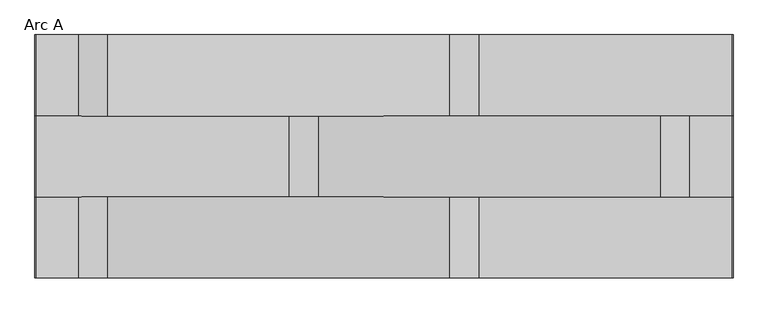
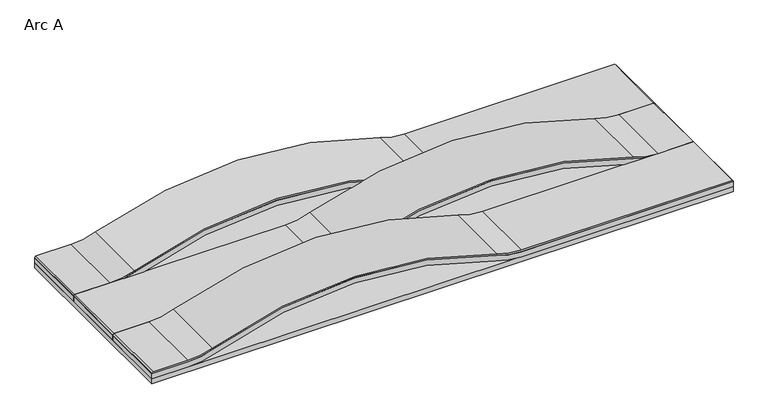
"""IFC4 building model written with IfcOpenShell, lengths in millimetres: proxy geometry, FilzFelt_Arc : Arc A."""

from ifc_helpers import new_model, si_unit, point, frame, frame_2d, origin, origin_with_axes, place, context, project, spatial, polyline, circle_curve, trimmed, segment, composite_curve, outline, extrude, source, transform, mapped, element, save


def arc_a_e282a2cc(model_context):
    return source(origin(), model_context, "Body", "SweptSolid", [
        extrude(outline(composite_curve([segment(polyline([(19.952, -546.1), (10.046, -546.1), (10.046, -477.9298789)]), True, "CONTINUOUS"), segment(trimmed(circle_curve(frame_2d((146.952, -477.9298789)), 136.906), [point((10.046, -477.9298789))], [point((19.1533167, -428.8304962))], False, "CARTESIAN"), True, "CONTINUOUS"), segment(trimmed(circle_curve(frame_2d((-667.2995118, -165.1)), 735.3715118), [point((19.1533167, -428.8304962))], [point((19.1533167, 98.6304962))], True, "CARTESIAN"), True, "CONTINUOUS"), segment(trimmed(circle_curve(frame_2d((146.952, 147.7298789)), 136.906), [point((19.1533167, 98.6304962))], [point((10.046, 147.7298789))], False, "CARTESIAN"), True, "CONTINUOUS"), segment(polyline([(10.046, 147.7298789), (10.046, 546.1), (19.952, 546.1), (19.952, 147.7298789)]), True, "CONTINUOUS"), segment(trimmed(circle_curve(frame_2d((146.952, 147.7298789)), 127.0), [point((19.952, 147.7298789))], [point((28.4003457, 102.1831417))], True, "CARTESIAN"), True, "CONTINUOUS"), segment(trimmed(circle_curve(frame_2d((-667.2995118, -165.1)), 745.2775118), [point((28.4003457, 102.1831417))], [point((28.4003457, -432.3831417))], False, "CARTESIAN"), True, "CONTINUOUS"), segment(trimmed(circle_curve(frame_2d((146.952, -477.9298789)), 127.0), [point((28.4003457, -432.3831417))], [point((19.952, -477.9298789))], True, "CARTESIAN"), True, "CONTINUOUS"), segment(polyline([(19.952, -477.9298789), (19.952, -546.1)]), True, "CONTINUOUS")], self_intersect=False)), frame((0.0, -190.5, 0.0), z_axis=(0.0, 1.0, 0.0), x_axis=(0.0, 0.0, 1.0)), (0.0, 0.0, 1.0), 127.0),
        extrude(outline(composite_curve([segment(polyline([(19.952, 546.1), (19.952, 477.9298789)]), True, "CONTINUOUS"), segment(trimmed(circle_curve(frame_2d((146.952, 477.9298789)), 127.0), [point((19.952, 477.9298789))], [point((28.4003457, 432.3831417))], True, "CARTESIAN"), True, "CONTINUOUS"), segment(trimmed(circle_curve(frame_2d((-667.2995118, 165.1)), 745.2775118), [point((28.4003457, 432.3831417))], [point((28.4003457, -102.1831417))], False, "CARTESIAN"), True, "CONTINUOUS"), segment(trimmed(circle_curve(frame_2d((146.952, -147.7298789)), 127.0), [point((28.4003457, -102.1831417))], [point((19.952, -147.7298789))], True, "CARTESIAN"), True, "CONTINUOUS"), segment(polyline([(19.952, -147.7298789), (19.952, -546.1), (10.046, -546.1), (10.046, -147.7298789)]), True, "CONTINUOUS"), segment(trimmed(circle_curve(frame_2d((146.952, -147.7298789)), 136.906), [point((10.046, -147.7298789))], [point((19.1533167, -98.6304962))], False, "CARTESIAN"), True, "CONTINUOUS"), segment(trimmed(circle_curve(frame_2d((-667.2995118, 165.1)), 735.3715118), [point((19.1533167, -98.6304962))], [point((19.1533167, 428.8304962))], True, "CARTESIAN"), True, "CONTINUOUS"), segment(trimmed(circle_curve(frame_2d((146.952, 477.9298789)), 136.906), [point((19.1533167, 428.8304962))], [point((10.046, 477.9298789))], False, "CARTESIAN"), True, "CONTINUOUS"), segment(polyline([(10.046, 477.9298789), (10.046, 546.1), (19.952, 546.1)]), True, "CONTINUOUS")], self_intersect=False)), frame((0.0, -63.5, 0.0), z_axis=(0.0, 1.0, 0.0), x_axis=(0.0, 0.0, 1.0)), (0.0, 0.0, 1.0), 127.0),
        extrude(outline(composite_curve([segment(trimmed(circle_curve(frame_2d((146.952, 147.7298789)), 136.906), [point((19.1533167, 98.6304962))], [point((10.046, 147.7298789))], False, "CARTESIAN"), True, "CONTINUOUS"), segment(polyline([(10.046, 147.7298789), (10.046, 546.1), (19.952, 546.1), (19.952, 147.7298789)]), True, "CONTINUOUS"), segment(trimmed(circle_curve(frame_2d((146.952, 147.7298789)), 127.0), [point((19.952, 147.7298789))], [point((28.4003457, 102.1831417))], True, "CARTESIAN"), True, "CONTINUOUS"), segment(trimmed(circle_curve(frame_2d((-667.2995118, -165.1)), 745.2775118), [point((28.4003457, 102.1831417))], [point((28.4003457, -432.3831417))], False, "CARTESIAN"), True, "CONTINUOUS"), segment(trimmed(circle_curve(frame_2d((146.952, -477.9298789)), 127.0), [point((28.4003457, -432.3831417))], [point((19.952, -477.9298789))], True, "CARTESIAN"), True, "CONTINUOUS"), segment(polyline([(19.952, -477.9298789), (19.952, -546.1), (10.046, -546.1), (10.046, -477.9298789)]), True, "CONTINUOUS"), segment(trimmed(circle_curve(frame_2d((146.952, -477.9298789)), 136.906), [point((10.046, -477.9298789))], [point((19.1533167, -428.8304962))], False, "CARTESIAN"), True, "CONTINUOUS"), segment(trimmed(circle_curve(frame_2d((-667.2995118, -165.1)), 735.3715118), [point((19.1533167, -428.8304962))], [point((19.1533167, 98.6304962))], True, "CARTESIAN"), True, "CONTINUOUS")], self_intersect=False)), frame((0.0, 63.5, 0.0), z_axis=(0.0, 1.0, 0.0), x_axis=(0.0, 0.0, 1.0)), (0.0, 0.0, 1.0), 127.0),
        extrude(outline(composite_curve([segment(trimmed(circle_curve(frame_2d((150.0, -148.2947345)), 127.0), [point((31.4189275, -102.8246428))], [point((23.0, -148.2947345))], True, "CARTESIAN"), True, "CONTINUOUS"), segment(polyline([(23.0, -148.2947345), (23.0, -544.1), (21.0, -546.1), (19.952, -546.1), (19.952, -147.7298789)]), True, "CONTINUOUS"), segment(trimmed(circle_curve(frame_2d((146.952, -147.7298789)), 127.0), [point((19.952, -147.7298789))], [point((28.4003457, -102.1831417))], False, "CARTESIAN"), True, "CONTINUOUS"), segment(trimmed(circle_curve(frame_2d((-667.2995118, 165.1)), 745.2775118), [point((28.4003457, -102.1831417))], [point((28.4003457, 432.3831417))], True, "CARTESIAN"), True, "CONTINUOUS"), segment(trimmed(circle_curve(frame_2d((146.952, 477.9298789)), 127.0), [point((28.4003457, 432.3831417))], [point((19.952, 477.9298789))], False, "CARTESIAN"), True, "CONTINUOUS"), segment(polyline([(19.952, 477.9298789), (19.952, 546.1), (21.0, 546.1), (23.0, 544.1), (23.0, 478.4947345)]), True, "CONTINUOUS"), segment(trimmed(circle_curve(frame_2d((150.0, 478.4947345)), 127.0), [point((23.0, 478.4947345))], [point((31.4189275, 433.0246428))], True, "CARTESIAN"), True, "CONTINUOUS"), segment(trimmed(circle_curve(frame_2d((-667.2995118, 165.1)), 748.3255118), [point((31.4189275, 433.0246428))], [point((31.4189275, -102.8246428))], False, "CARTESIAN"), True, "CONTINUOUS")], self_intersect=False)), frame((0.0, -63.5, 0.0), z_axis=(0.0, 1.0, 0.0), x_axis=(0.0, 0.0, 1.0)), (0.0, 0.0, 1.0), 127.0),
        extrude(outline(composite_curve([segment(trimmed(circle_curve(frame_2d((-667.2995118, -165.1)), 748.3255118), [point((31.4189275, 102.8246428))], [point((31.4189275, -433.0246428))], False, "CARTESIAN"), True, "CONTINUOUS"), segment(trimmed(circle_curve(frame_2d((150.0, -478.4947345)), 127.0), [point((31.4189275, -433.0246428))], [point((23.0, -478.4947345))], True, "CARTESIAN"), True, "CONTINUOUS"), segment(polyline([(23.0, -478.4947345), (23.0, -544.1), (21.0, -546.1), (19.952, -546.1), (19.952, -477.9298789)]), True, "CONTINUOUS"), segment(trimmed(circle_curve(frame_2d((146.952, -477.9298789)), 127.0), [point((19.952, -477.9298789))], [point((28.4003457, -432.3831417))], False, "CARTESIAN"), True, "CONTINUOUS"), segment(trimmed(circle_curve(frame_2d((-667.2995118, -165.1)), 745.2775118), [point((28.4003457, -432.3831417))], [point((28.4003457, 102.1831417))], True, "CARTESIAN"), True, "CONTINUOUS"), segment(trimmed(circle_curve(frame_2d((146.952, 147.7298789)), 127.0), [point((28.4003457, 102.1831417))], [point((19.952, 147.7298789))], False, "CARTESIAN"), True, "CONTINUOUS"), segment(polyline([(19.952, 147.7298789), (19.952, 546.1), (21.0, 546.1), (23.0, 544.1), (23.0, 148.2947345)]), True, "CONTINUOUS"), segment(trimmed(circle_curve(frame_2d((150.0, 148.2947345)), 127.0), [point((23.0, 148.2947345))], [point((31.4189275, 102.8246428))], True, "CARTESIAN"), True, "CONTINUOUS")], self_intersect=False)), frame((0.0, 63.5, 0.0), z_axis=(0.0, 1.0, 0.0), x_axis=(0.0, 0.0, 1.0)), (0.0, 0.0, 1.0), 127.0),
        extrude(outline(composite_curve([segment(trimmed(circle_curve(frame_2d((-667.2995118, -165.1)), 748.3255118), [point((31.4189275, 102.8246428))], [point((31.4189275, -433.0246428))], False, "CARTESIAN"), True, "CONTINUOUS"), segment(trimmed(circle_curve(frame_2d((150.0, -478.4947345)), 127.0), [point((31.4189275, -433.0246428))], [point((23.0, -478.4947345))], True, "CARTESIAN"), True, "CONTINUOUS"), segment(polyline([(23.0, -478.4947345), (23.0, -544.1), (21.0, -546.1), (19.952, -546.1), (19.952, -477.9298789)]), True, "CONTINUOUS"), segment(trimmed(circle_curve(frame_2d((146.952, -477.9298789)), 127.0), [point((19.952, -477.9298789))], [point((28.4003457, -432.3831417))], False, "CARTESIAN"), True, "CONTINUOUS"), segment(trimmed(circle_curve(frame_2d((-667.2995118, -165.1)), 745.2775118), [point((28.4003457, -432.3831417))], [point((28.4003457, 102.1831417))], True, "CARTESIAN"), True, "CONTINUOUS"), segment(trimmed(circle_curve(frame_2d((146.952, 147.7298789)), 127.0), [point((28.4003457, 102.1831417))], [point((19.952, 147.7298789))], False, "CARTESIAN"), True, "CONTINUOUS"), segment(polyline([(19.952, 147.7298789), (19.952, 546.1), (21.0, 546.1), (23.0, 544.1), (23.0, 148.2947345)]), True, "CONTINUOUS"), segment(trimmed(circle_curve(frame_2d((150.0, 148.2947345)), 127.0), [point((23.0, 148.2947345))], [point((31.4189275, 102.8246428))], True, "CARTESIAN"), True, "CONTINUOUS")], self_intersect=False)), frame((0.0, -190.5, 0.0), z_axis=(0.0, 1.0, 0.0), x_axis=(0.0, 0.0, 1.0)), (0.0, 0.0, 1.0), 127.0),
        extrude(outline(polyline([(546.1, 190.5), (546.1, -190.5), (-546.1, -190.5), (-546.1, 190.5), (546.1, 190.5)])), origin_with_axes(), (0.0, 0.0, 1.0), 10.0),
    ])


if __name__ == "__main__":
    model = new_model("IFC4")
    model_context = context("Model", 3, world=origin())
    ifc_project = project(units=[si_unit("LENGTHUNIT", "METRE", prefix="MILLI")], contexts=[model_context])
    site = spatial("IfcSite", under=ifc_project)
    building = spatial("IfcBuilding", under=site)
    placement = place(None, origin())
    arc_a_shape = arc_a_e282a2cc(model_context)
    element("IfcBuildingElementProxy", 1, Name="FilzFelt_Arc : Arc A", ObjectType="FilzFelt_Arc : Arc A", at=placement, inside=building, context=model_context, shape_type="MappedRepresentation", body=[
        mapped(arc_a_shape, transform((0.0, 0.0, 0.0), x_axis=(1.0, 0.0, 0.0), y_axis=(0.0, 1.0, 0.0), z_axis=(0.0, 0.0, 1.0))),
    ])
    save(model, "model.ifc")
